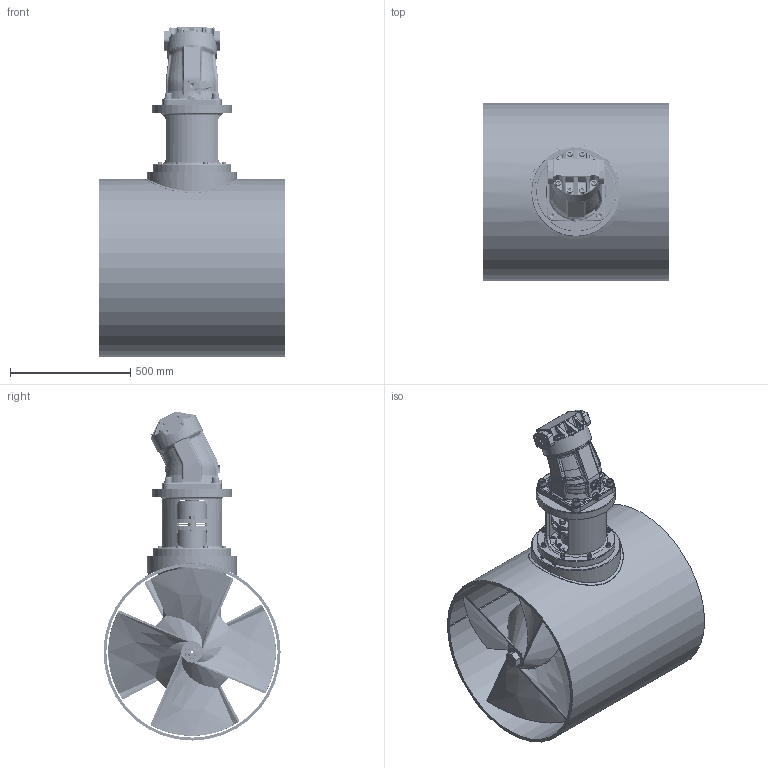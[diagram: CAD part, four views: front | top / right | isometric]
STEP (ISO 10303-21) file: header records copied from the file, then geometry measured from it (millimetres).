
FILE_DESCRIPTION(/* description */ (''),/* implementation_level */ '2;1');
FILE_NAME(/* name */ 'Q:\THRUSTERS\THRUSTER SALES & SUPPORT DOCS\THRUSTER Sales\H-T\H-0700-T\H-0700-T.stp',/* time_stamp */ '2020-03-04T15:41:54+00:00',/* author */ ('Jordan.Griffith'),/* organization */ (''),/* preprocessor_version */ 'ST-DEVELOPER v17',/* originating_system */ 'Autodesk Inventor 2019',/* authorisation */ '');
FILE_SCHEMA (('AUTOMOTIVE_DESIGN { 1 0 10303 214 3 1 1 }'));
Products named in the file (1): H-0700-T_Shrinkwrap_1
Bounding box: 775 x 735.19 x 1366.06 mm (x, y, z)
Volume: 79058709.1 mm3; surface area: 9520389.5 mm2
Topology: 69 solids, 69 shells, 3113 faces, 8312 edges, 5454 vertices
Faces by surface type: cylinder 1207, plane 818, bspline 439, cone 317, torus 287, sphere 45
Full cylindrical faces by diameter (mm): 2.381 x4, 4 x4, 6 x4, 6.75 x16, 8 x8, 8.5 x8, 10.25 x40, 12 x26, 12.4 x8, 12.5 x56, 13 x8, 13.835 x3, 14 x34, 17 x1, 18 x16, 18.25 x2, 19 x29, 20 x5, 20.5 x5, 22 x4, 22.01 x4, 24 x8, 25 x1, 26 x8, 27 x9, 30 x4, 31 x12, 32 x2, 33 x4, 34 x2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
Entity records: 137905 total; most frequent: CARTESIAN_POINT 58125, ORIENTED_EDGE 16360, DIRECTION 16115, EDGE_CURVE 8180, AXIS2_PLACEMENT_3D 6845, VERTEX_POINT 5453, CIRCLE 4103, EDGE_LOOP 3629
